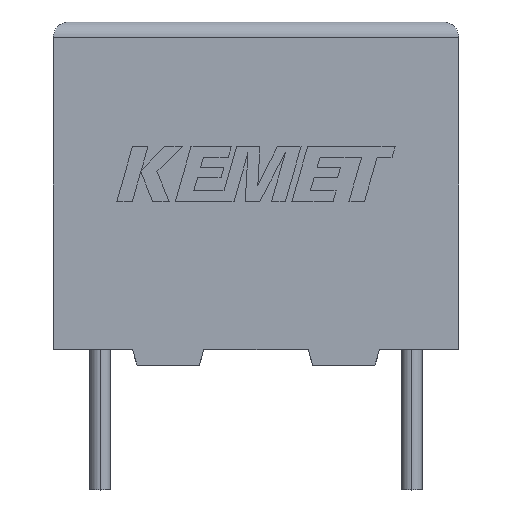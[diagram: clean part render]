
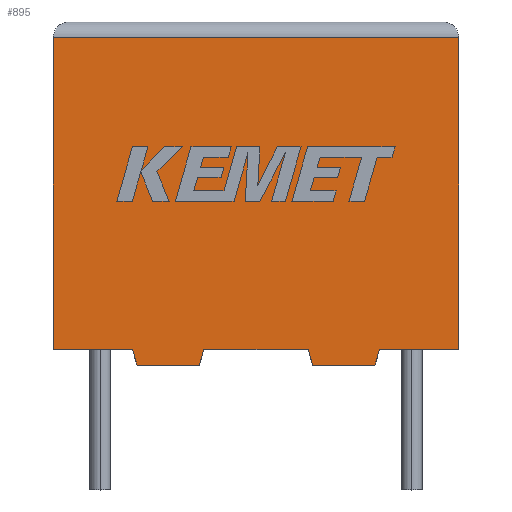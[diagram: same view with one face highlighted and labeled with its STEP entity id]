
A CAD part, top view. The second image highlights one B-rep face of the part: STEP entity #895.
In plain terms, the highlighted planar face has unit normal (0, 0, 1).
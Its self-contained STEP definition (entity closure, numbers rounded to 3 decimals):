
#49 = LINE ( 'NONE', #1093, #2095 ) ;
#168 = VERTEX_POINT ( 'NONE', #589 ) ;
#186 = VERTEX_POINT ( 'NONE', #3097 ) ;
#300 = ORIENTED_EDGE ( 'NONE', *, *, #2969, .T. ) ;
#311 = VECTOR ( 'NONE', #1385, 1000. ) ;
#327 = VERTEX_POINT ( 'NONE', #2482 ) ;
#334 = ORIENTED_EDGE ( 'NONE', *, *, #1990, .T. ) ;
#352 = CARTESIAN_POINT ( 'NONE',  ( 0., 10., 5. ) ) ;
#406 = CARTESIAN_POINT ( 'NONE',  ( 8.321, -0.5, 5. ) ) ;
#412 = DIRECTION ( 'NONE',  ( 1., 0., 0. ) ) ;
#419 = VECTOR ( 'NONE', #1800, 1000. ) ;
#440 = AXIS2_PLACEMENT_3D ( 'NONE', #2183, #1693, #658 ) ;
#479 = CARTESIAN_POINT ( 'NONE',  ( 0., 10., 5. ) ) ;
#488 = VERTEX_POINT ( 'NONE', #756 ) ;
#505 = CARTESIAN_POINT ( 'NONE',  ( 8.171, 0., 5. ) ) ;
#583 = DIRECTION ( 'NONE',  ( 1., 0., 0. ) ) ;
#589 = CARTESIAN_POINT ( 'NONE',  ( 10.46, 0., 5. ) ) ;
#597 = CARTESIAN_POINT ( 'NONE',  ( 2.69, -0.5, 5. ) ) ;
#622 = LINE ( 'NONE', #645, #2385 ) ;
#626 = DIRECTION ( 'NONE',  ( 0., -1., 0. ) ) ;
#631 = ORIENTED_EDGE ( 'NONE', *, *, #3148, .T. ) ;
#645 = CARTESIAN_POINT ( 'NONE',  ( 4.679, -0.5, 5. ) ) ;
#658 = DIRECTION ( 'NONE',  ( -1., 0., 0. ) ) ;
#668 = EDGE_CURVE ( 'NONE', #327, #186, #2388, .T. ) ;
#688 = VECTOR ( 'NONE', #832, 1000. ) ;
#756 = CARTESIAN_POINT ( 'NONE',  ( 4.829, 0., 5. ) ) ;
#825 = VERTEX_POINT ( 'NONE', #1921 ) ;
#832 = DIRECTION ( 'NONE',  ( 1., 0., 0. ) ) ;
#853 = CARTESIAN_POINT ( 'NONE',  ( 10.46, 0., 5. ) ) ;
#895 = ADVANCED_FACE ( 'NONE', ( #1213 ), #2698, .F. ) ;
#950 = CARTESIAN_POINT ( 'NONE',  ( 2.54, 0., 5. ) ) ;
#952 = LINE ( 'NONE', #853, #2803 ) ;
#1026 = DIRECTION ( 'NONE',  ( -0.287, 0.958, 0. ) ) ;
#1027 = ORIENTED_EDGE ( 'NONE', *, *, #2567, .T. ) ;
#1048 = VECTOR ( 'NONE', #1618, 1000. ) ;
#1093 = CARTESIAN_POINT ( 'NONE',  ( 0., 0., 5. ) ) ;
#1200 = VERTEX_POINT ( 'NONE', #406 ) ;
#1213 = FACE_OUTER_BOUND ( 'NONE', #2084, .T. ) ;
#1253 = LINE ( 'NONE', #597, #1457 ) ;
#1322 = LINE ( 'NONE', #2323, #2509 ) ;
#1385 = DIRECTION ( 'NONE',  ( 1., 0., 0. ) ) ;
#1400 = VERTEX_POINT ( 'NONE', #505 ) ;
#1402 = VERTEX_POINT ( 'NONE', #950 ) ;
#1457 = VECTOR ( 'NONE', #583, 1000. ) ;
#1582 = CARTESIAN_POINT ( 'NONE',  ( 13., 0., 5. ) ) ;
#1618 = DIRECTION ( 'NONE',  ( -1., 0., 0. ) ) ;
#1670 = CARTESIAN_POINT ( 'NONE',  ( 10.31, -0.5, 5. ) ) ;
#1693 = DIRECTION ( 'NONE',  ( 0., 0., -1. ) ) ;
#1744 = ORIENTED_EDGE ( 'NONE', *, *, #2574, .T. ) ;
#1746 = ORIENTED_EDGE ( 'NONE', *, *, #2536, .F. ) ;
#1798 = EDGE_CURVE ( 'NONE', #2632, #1402, #2777, .T. ) ;
#1800 = DIRECTION ( 'NONE',  ( -1., 0., 0. ) ) ;
#1809 = DIRECTION ( 'NONE',  ( 0., 1., 0. ) ) ;
#1811 = VERTEX_POINT ( 'NONE', #1670 ) ;
#1816 = CARTESIAN_POINT ( 'NONE',  ( 10.31, -0.5, 5. ) ) ;
#1822 = VECTOR ( 'NONE', #1026, 1000. ) ;
#1849 = CARTESIAN_POINT ( 'NONE',  ( 0., 0., 5. ) ) ;
#1865 = CARTESIAN_POINT ( 'NONE',  ( 0., 0., 5. ) ) ;
#1908 = VERTEX_POINT ( 'NONE', #479 ) ;
#1921 = CARTESIAN_POINT ( 'NONE',  ( 2.69, -0.5, 5. ) ) ;
#1947 = ORIENTED_EDGE ( 'NONE', *, *, #2899, .T. ) ;
#1974 = ORIENTED_EDGE ( 'NONE', *, *, #2274, .F. ) ;
#1990 = EDGE_CURVE ( 'NONE', #168, #327, #2941, .T. ) ;
#2039 = EDGE_CURVE ( 'NONE', #1200, #1400, #2333, .T. ) ;
#2084 = EDGE_LOOP ( 'NONE', ( #2171, #631, #1027, #2598, #1947, #2259, #300, #1744, #3224, #1974, #1746, #334 ) ) ;
#2095 = VECTOR ( 'NONE', #626, 1000. ) ;
#2156 = VECTOR ( 'NONE', #1809, 1000. ) ;
#2171 = ORIENTED_EDGE ( 'NONE', *, *, #668, .T. ) ;
#2183 = CARTESIAN_POINT ( 'NONE',  ( 0., 0., 5. ) ) ;
#2259 = ORIENTED_EDGE ( 'NONE', *, *, #2770, .T. ) ;
#2274 = EDGE_CURVE ( 'NONE', #1811, #1200, #2418, .T. ) ;
#2323 = CARTESIAN_POINT ( 'NONE',  ( 2.54, 0., 5. ) ) ;
#2333 = LINE ( 'NONE', #2764, #1822 ) ;
#2385 = VECTOR ( 'NONE', #2415, 1000. ) ;
#2388 = LINE ( 'NONE', #1582, #2156 ) ;
#2415 = DIRECTION ( 'NONE',  ( 0.287, 0.958, 0. ) ) ;
#2418 = LINE ( 'NONE', #1816, #419 ) ;
#2428 = LINE ( 'NONE', #352, #1048 ) ;
#2482 = CARTESIAN_POINT ( 'NONE',  ( 13., 0., 5. ) ) ;
#2493 = LINE ( 'NONE', #1865, #688 ) ;
#2509 = VECTOR ( 'NONE', #2871, 1000. ) ;
#2536 = EDGE_CURVE ( 'NONE', #168, #1811, #952, .T. ) ;
#2567 = EDGE_CURVE ( 'NONE', #1908, #2632, #49, .T. ) ;
#2574 = EDGE_CURVE ( 'NONE', #488, #1400, #2493, .T. ) ;
#2582 = CARTESIAN_POINT ( 'NONE',  ( 0., 0., 5. ) ) ;
#2598 = ORIENTED_EDGE ( 'NONE', *, *, #1798, .T. ) ;
#2632 = VERTEX_POINT ( 'NONE', #2582 ) ;
#2669 = CARTESIAN_POINT ( 'NONE',  ( 4.679, -0.5, 5. ) ) ;
#2698 = PLANE ( 'NONE',  #440 ) ;
#2741 = VECTOR ( 'NONE', #412, 1000. ) ;
#2760 = VERTEX_POINT ( 'NONE', #2669 ) ;
#2764 = CARTESIAN_POINT ( 'NONE',  ( 8.321, -0.5, 5. ) ) ;
#2770 = EDGE_CURVE ( 'NONE', #825, #2760, #1253, .T. ) ;
#2777 = LINE ( 'NONE', #3170, #2741 ) ;
#2803 = VECTOR ( 'NONE', #3123, 1000. ) ;
#2871 = DIRECTION ( 'NONE',  ( 0.287, -0.958, 0. ) ) ;
#2899 = EDGE_CURVE ( 'NONE', #1402, #825, #1322, .T. ) ;
#2941 = LINE ( 'NONE', #1849, #311 ) ;
#2969 = EDGE_CURVE ( 'NONE', #2760, #488, #622, .T. ) ;
#3097 = CARTESIAN_POINT ( 'NONE',  ( 13., 10., 5. ) ) ;
#3123 = DIRECTION ( 'NONE',  ( -0.287, -0.958, 0. ) ) ;
#3148 = EDGE_CURVE ( 'NONE', #186, #1908, #2428, .T. ) ;
#3170 = CARTESIAN_POINT ( 'NONE',  ( 0., 0., 5. ) ) ;
#3224 = ORIENTED_EDGE ( 'NONE', *, *, #2039, .F. ) ;
